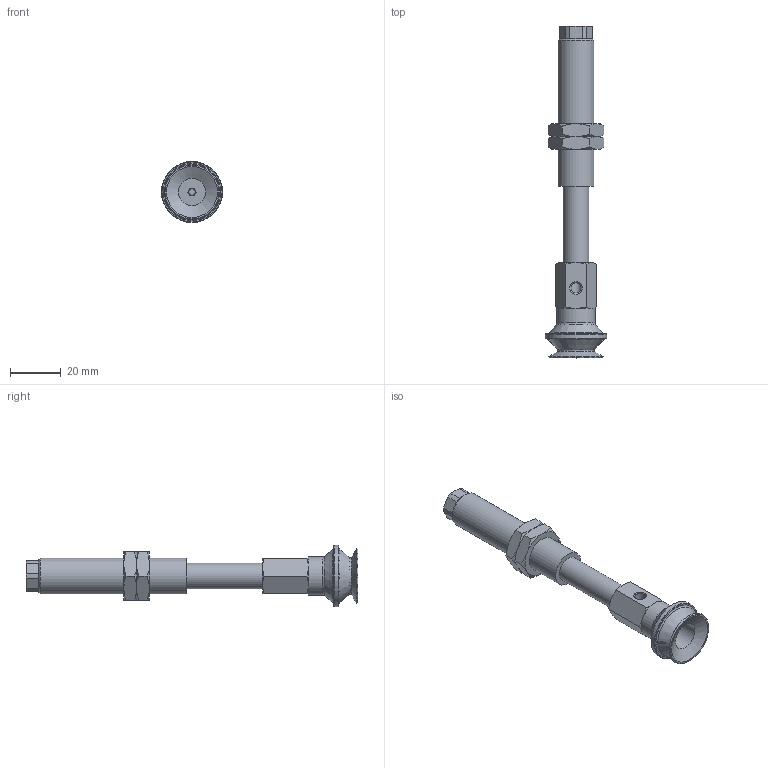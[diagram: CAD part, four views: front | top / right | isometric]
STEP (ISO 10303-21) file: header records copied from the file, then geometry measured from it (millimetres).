
FILE_DESCRIPTION(('STEP AP203'),'1');
FILE_NAME('.stp','2025-04-02T00:36:20',(' '),(' '),'Spatial InterOp 3D',' ',' ');
FILE_SCHEMA(('CONFIG_CONTROL_DESIGN'));
Length unit declared in the file: millimetre
Products named in the file (7): BNABPBYS-20-30-※; Adapter20-T-NAPB; CONNECTOR-20-30-PB; Nut-20-S-PB; NAPBTS-20-30--F; NAPBTS-20-30--M; BPBG-20-※
Assembly tree (7 placements, depth 2):
  BNABPBYS-20-30-※
    Adapter20-T-NAPB
    CONNECTOR-20-30-PB
    Nut-20-S-PB  x2
    NAPBTS-20-30--F
    NAPBTS-20-30--M
    BPBG-20-※
Bounding box: 24 x 130.5 x 24 mm (x, y, z)
Volume: 19373.9 mm3; surface area: 14677.2 mm2
Topology: 7 solids, 7 shells, 155 faces, 340 edges, 208 vertices
Faces by surface type: plane 67, cone 56, cylinder 23, torus 9
Full cylindrical faces by diameter (mm): 2.5 x1, 3 x1, 4.134 x3, 4.6 x1, 5 x2, 10 x2, 10.8 x1, 11 x1, 12.917 x2, 14 x1, 15 x1, 24 x1
Entity records: 3984 total; most frequent: CARTESIAN_POINT 922, DIRECTION 580, ORIENTED_EDGE 490, AXIS2_PLACEMENT_3D 247, EDGE_CURVE 245, EDGE_LOOP 190, VERTEX_POINT 171, FACE_OUTER_BOUND 155
